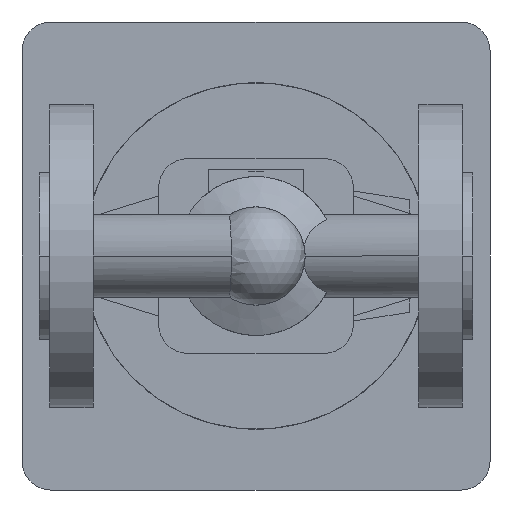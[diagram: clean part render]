
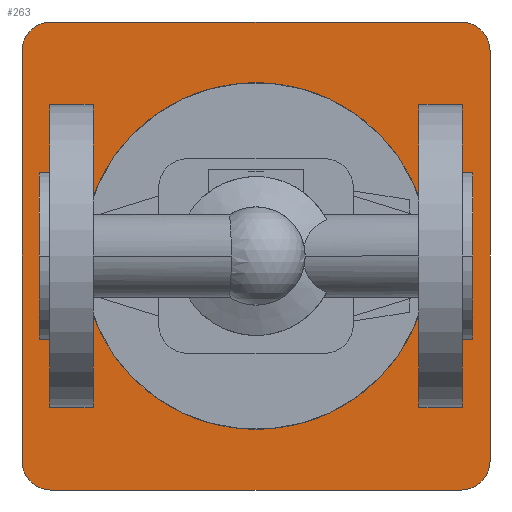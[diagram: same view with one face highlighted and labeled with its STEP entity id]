
A CAD part, front view. The second image highlights one B-rep face of the part: STEP entity #263.
In plain terms, the highlighted planar face has unit normal (0, -1, 0).
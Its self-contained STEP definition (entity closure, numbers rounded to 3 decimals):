
#263 = ADVANCED_FACE( '', ( #603, #604 ), #605, .F. );
#603 = FACE_OUTER_BOUND( '', #969, .T. );
#604 = FACE_BOUND( '', #970, .T. );
#605 = PLANE( '', #971 );
#969 = EDGE_LOOP( '', ( #2118, #2119, #2120, #2121, #2122, #2123, #2124, #2125 ) );
#970 = EDGE_LOOP( '', ( #2126, #2127 ) );
#971 = AXIS2_PLACEMENT_3D( '', #2128, #2129, #2130 );
#2118 = ORIENTED_EDGE( '', *, *, #2648, .F. );
#2119 = ORIENTED_EDGE( '', *, *, #2649, .F. );
#2120 = ORIENTED_EDGE( '', *, *, #2650, .F. );
#2121 = ORIENTED_EDGE( '', *, *, #2651, .F. );
#2122 = ORIENTED_EDGE( '', *, *, #2652, .F. );
#2123 = ORIENTED_EDGE( '', *, *, #2653, .F. );
#2124 = ORIENTED_EDGE( '', *, *, #2654, .F. );
#2125 = ORIENTED_EDGE( '', *, *, #2655, .F. );
#2126 = ORIENTED_EDGE( '', *, *, #2563, .F. );
#2127 = ORIENTED_EDGE( '', *, *, #2656, .F. );
#2128 = CARTESIAN_POINT( '', ( 75., 380., 0. ) );
#2129 = DIRECTION( '', ( 0., 1., 0. ) );
#2130 = DIRECTION( '', ( 0., 0., 1. ) );
#2563 = EDGE_CURVE( '', #3140, #3143, #3144, .T. );
#2648 = EDGE_CURVE( '', #3287, #3288, #3289, .T. );
#2649 = EDGE_CURVE( '', #3290, #3287, #3291, .T. );
#2650 = EDGE_CURVE( '', #3292, #3290, #3293, .T. );
#2651 = EDGE_CURVE( '', #3294, #3292, #3295, .T. );
#2652 = EDGE_CURVE( '', #3296, #3294, #3297, .T. );
#2653 = EDGE_CURVE( '', #3298, #3296, #3299, .T. );
#2654 = EDGE_CURVE( '', #3300, #3298, #3301, .T. );
#2655 = EDGE_CURVE( '', #3288, #3300, #3302, .T. );
#2656 = EDGE_CURVE( '', #3143, #3140, #3303, .T. );
#3140 = VERTEX_POINT( '', #4243 );
#3143 = VERTEX_POINT( '', #4247 );
#3144 = CIRCLE( '', #4248, 40. );
#3287 = VERTEX_POINT( '', #4446 );
#3288 = VERTEX_POINT( '', #4447 );
#3289 = CIRCLE( '', #4448, 10. );
#3290 = VERTEX_POINT( '', #4449 );
#3291 = LINE( '', #4450, #4451 );
#3292 = VERTEX_POINT( '', #4452 );
#3293 = CIRCLE( '', #4453, 10. );
#3294 = VERTEX_POINT( '', #4454 );
#3295 = LINE( '', #4455, #4456 );
#3296 = VERTEX_POINT( '', #4457 );
#3297 = CIRCLE( '', #4458, 10. );
#3298 = VERTEX_POINT( '', #4459 );
#3299 = LINE( '', #4460, #4461 );
#3300 = VERTEX_POINT( '', #4462 );
#3301 = CIRCLE( '', #4463, 10. );
#3302 = LINE( '', #4464, #4465 );
#3303 = CIRCLE( '', #4466, 40. );
#4243 = CARTESIAN_POINT( '', ( 35., 380., 0. ) );
#4247 = CARTESIAN_POINT( '', ( 115., 380., 0. ) );
#4248 = AXIS2_PLACEMENT_3D( '', #5024, #5025, #5026 );
#4446 = CARTESIAN_POINT( '', ( -6., 380., 71. ) );
#4447 = CARTESIAN_POINT( '', ( 4., 380., 81. ) );
#4448 = AXIS2_PLACEMENT_3D( '', #5169, #5170, #5171 );
#4449 = CARTESIAN_POINT( '', ( -6., 380., -71. ) );
#4450 = CARTESIAN_POINT( '', ( -6., 380., -71. ) );
#4451 = VECTOR( '', #5172, 1. );
#4452 = CARTESIAN_POINT( '', ( 4., 380., -81. ) );
#4453 = AXIS2_PLACEMENT_3D( '', #5173, #5174, #5175 );
#4454 = CARTESIAN_POINT( '', ( 146., 380., -81. ) );
#4455 = CARTESIAN_POINT( '', ( 146., 380., -81. ) );
#4456 = VECTOR( '', #5176, 1. );
#4457 = CARTESIAN_POINT( '', ( 156., 380., -71. ) );
#4458 = AXIS2_PLACEMENT_3D( '', #5177, #5178, #5179 );
#4459 = CARTESIAN_POINT( '', ( 156., 380., 71. ) );
#4460 = CARTESIAN_POINT( '', ( 156., 380., 71. ) );
#4461 = VECTOR( '', #5180, 1. );
#4462 = CARTESIAN_POINT( '', ( 146., 380., 81. ) );
#4463 = AXIS2_PLACEMENT_3D( '', #5181, #5182, #5183 );
#4464 = CARTESIAN_POINT( '', ( 4., 380., 81. ) );
#4465 = VECTOR( '', #5184, 1. );
#4466 = AXIS2_PLACEMENT_3D( '', #5185, #5186, #5187 );
#5024 = CARTESIAN_POINT( '', ( 75., 380., 0. ) );
#5025 = DIRECTION( '', ( 0., -1., 0. ) );
#5026 = DIRECTION( '', ( -1., 0., 0. ) );
#5169 = CARTESIAN_POINT( '', ( 4., 380., 71. ) );
#5170 = DIRECTION( '', ( 0., 1., 0. ) );
#5171 = DIRECTION( '', ( -1., 0., 0. ) );
#5172 = DIRECTION( '', ( 0., 0., 1. ) );
#5173 = CARTESIAN_POINT( '', ( 4., 380., -71. ) );
#5174 = DIRECTION( '', ( 0., 1., 0. ) );
#5175 = DIRECTION( '', ( 0., 0., -1. ) );
#5176 = DIRECTION( '', ( -1., 0., 0. ) );
#5177 = CARTESIAN_POINT( '', ( 146., 380., -71. ) );
#5178 = DIRECTION( '', ( 0., 1., 0. ) );
#5179 = DIRECTION( '', ( 1., 0., 0. ) );
#5180 = DIRECTION( '', ( 0., 0., -1. ) );
#5181 = CARTESIAN_POINT( '', ( 146., 380., 71. ) );
#5182 = DIRECTION( '', ( 0., 1., 0. ) );
#5183 = DIRECTION( '', ( 0., 0., 1. ) );
#5184 = DIRECTION( '', ( 1., 0., 0. ) );
#5185 = CARTESIAN_POINT( '', ( 75., 380., 0. ) );
#5186 = DIRECTION( '', ( 0., -1., 0. ) );
#5187 = DIRECTION( '', ( -1., 0., 0. ) );
